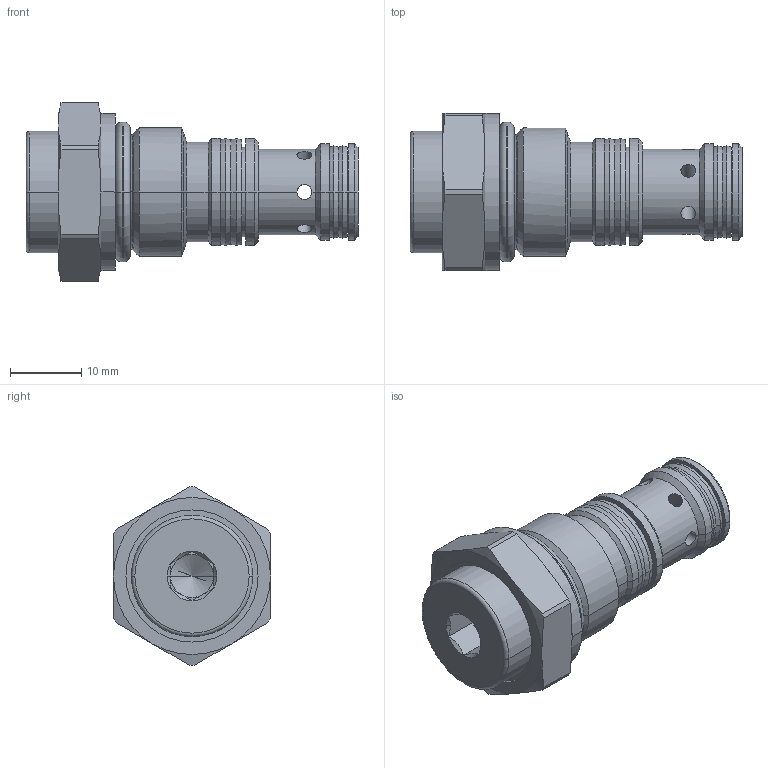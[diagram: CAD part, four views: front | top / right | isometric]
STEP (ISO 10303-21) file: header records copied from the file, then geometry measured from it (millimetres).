
FILE_DESCRIPTION((''),'2;1');
FILE_NAME('290584_SC5H-I3_ASM','2023-06-16T',('l.soukupova'),(''),'PRO/ENGINEER BY PARAMETRIC TECHNOLOGY CORPORATION, 2015440','PRO/ENGINEER BY PARAMETRIC TECHNOLOGY CORPORATION, 2015440','');
FILE_SCHEMA(('AUTOMOTIVE_DESIGN { 1 0 10303 214 1 1 1 1 }'));
Length unit declared in the file: millimetre
Products named in the file (7): 29058202; VSTI_12X1_5_ED_156254; OR2101540_201280; SSA01500126030C0_320002; SSA01300102025C0_320041_AF0; 1000108278_ASM; 290584_SC5H-I3_ASM
Assembly tree (6 placements, depth 3):
  290584_SC5H-I3_ASM
    1000108278_ASM
      29058202
      VSTI_12X1_5_ED_156254
      OR2101540_201280
      SSA01500126030C0_320002
      SSA01300102025C0_320041_AF0
Bounding box: 46.5 x 22 x 25 mm (x, y, z)
Volume: 8057.6 mm3; surface area: 7926.9 mm2
Topology: 5 solids, 8 shells, 220 faces, 510 edges, 326 vertices
Faces by surface type: cylinder 81, cone 72, plane 45, torus 22
Entity records: 10059 total; most frequent: CARTESIAN_POINT 2277, DIRECTION 1211, ORIENTED_EDGE 964, PRESENTATION_STYLE_ASSIGNMENT 580, STYLED_ITEM 530, CURVE_STYLE 522, AXIS2_PLACEMENT_3D 507, EDGE_CURVE 488
